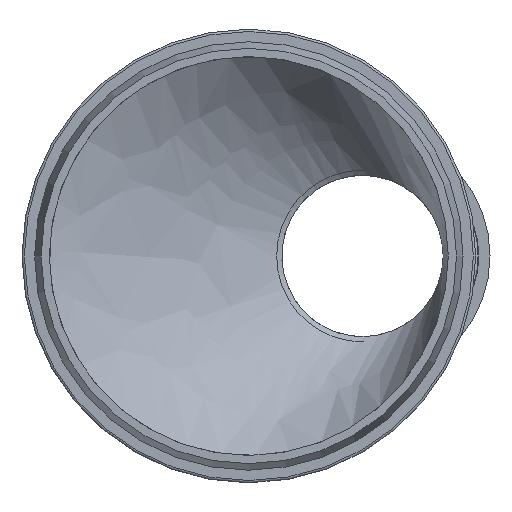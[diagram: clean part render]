
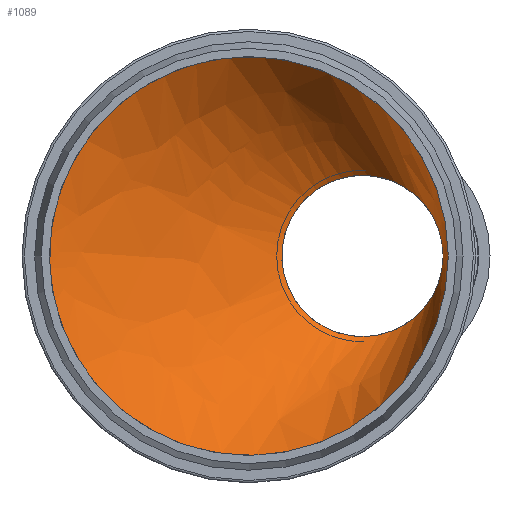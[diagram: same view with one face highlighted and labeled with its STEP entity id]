
A CAD part, front view. The second image highlights one B-rep face of the part: STEP entity #1089.
In plain terms, the highlighted free-form (B-spline) face has degree [1, 2] with [2, 9] control points.
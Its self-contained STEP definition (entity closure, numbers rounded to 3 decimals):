
#202=FACE_OUTER_BOUND($,#262,.T.);
#262=EDGE_LOOP($,(#729,#730,#731,#732,#733,#734));
#364=B_SPLINE_CURVE_WITH_KNOTS($,1,(#1611,#1612),.UNSPECIFIED.,.F.,.F.,
(2,2),(0.,2.266),.UNSPECIFIED.);
#414=CIRCLE($,#1162,16.975);
#415=CIRCLE($,#1163,16.975);
#416=CIRCLE($,#1164,42.);
#417=CIRCLE($,#1165,42.);
#473=VERTEX_POINT($,#1606);
#474=VERTEX_POINT($,#1607);
#475=VERTEX_POINT($,#1610);
#476=VERTEX_POINT($,#1613);
#584=EDGE_CURVE($,#473,#474,#414,.T.);
#585=EDGE_CURVE($,#474,#473,#415,.T.);
#586=EDGE_CURVE($,#474,#475,#364,.T.);
#587=EDGE_CURVE($,#475,#476,#416,.T.);
#588=EDGE_CURVE($,#476,#475,#417,.T.);
#729=ORIENTED_EDGE($,*,*,#584,.F.);
#730=ORIENTED_EDGE($,*,*,#585,.F.);
#731=ORIENTED_EDGE($,*,*,#586,.T.);
#732=ORIENTED_EDGE($,*,*,#587,.T.);
#733=ORIENTED_EDGE($,*,*,#588,.T.);
#734=ORIENTED_EDGE($,*,*,#586,.F.);
#1019=(
BOUNDED_SURFACE()
B_SPLINE_SURFACE(1,2,((#1588,#1589,#1590,#1591,#1592,#1593,#1594,#1595,
#1596),(#1597,#1598,#1599,#1600,#1601,#1602,#1603,#1604,#1605)),
 .UNSPECIFIED.,.F.,.T.,.F.)
B_SPLINE_SURFACE_WITH_KNOTS((2,2),(3,2,2,2,3),(-0.443,4.859),
(-3.142,-1.571,0.,1.571,3.142),
 .UNSPECIFIED.)
GEOMETRIC_REPRESENTATION_ITEM()
RATIONAL_B_SPLINE_SURFACE(((1.,0.707,1.,0.707,1.,
0.707,1.,0.707,1.),(1.,0.707,1.,0.707,
1.,0.707,1.,0.707,1.)))
REPRESENTATION_ITEM($)
SURFACE()
);
#1089=ADVANCED_FACE($,(#202),#1019,.T.);
#1162=AXIS2_PLACEMENT_3D($,#1608,#1293,#1294);
#1163=AXIS2_PLACEMENT_3D($,#1609,#1295,#1296);
#1164=AXIS2_PLACEMENT_3D($,#1614,#1297,#1298);
#1165=AXIS2_PLACEMENT_3D($,#1615,#1299,#1300);
#1293=DIRECTION('center_axis',(0.,-1.,0.));
#1294=DIRECTION('ref_axis',(1.,0.,0.));
#1295=DIRECTION('center_axis',(0.,-1.,0.));
#1296=DIRECTION('ref_axis',(1.,0.,0.));
#1297=DIRECTION('center_axis',(0.,-1.,0.));
#1298=DIRECTION('ref_axis',(1.,0.,0.));
#1299=DIRECTION('center_axis',(0.,-1.,0.));
#1300=DIRECTION('ref_axis',(1.,0.,0.));
#1588=CARTESIAN_POINT('Ctrl Pts',(33.501,97.959,11.048));
#1589=CARTESIAN_POINT('Ctrl Pts',(26.096,102.428,11.048));
#1590=CARTESIAN_POINT('Ctrl Pts',(26.096,102.428,0.));
#1591=CARTESIAN_POINT('Ctrl Pts',(26.096,102.428,-11.048));
#1592=CARTESIAN_POINT('Ctrl Pts',(33.501,97.959,-11.048));
#1593=CARTESIAN_POINT('Ctrl Pts',(40.905,93.49,-11.048));
#1594=CARTESIAN_POINT('Ctrl Pts',(40.905,93.49,0.));
#1595=CARTESIAN_POINT('Ctrl Pts',(40.905,93.49,11.048));
#1596=CARTESIAN_POINT('Ctrl Pts',(33.501,97.959,11.048));
#1597=CARTESIAN_POINT('Ctrl Pts',(1.21,44.46,64.599));
#1598=CARTESIAN_POINT('Ctrl Pts',(-42.084,70.591,64.599));
#1599=CARTESIAN_POINT('Ctrl Pts',(-42.084,70.591,0.));
#1600=CARTESIAN_POINT('Ctrl Pts',(-42.084,70.591,-64.599));
#1601=CARTESIAN_POINT('Ctrl Pts',(1.21,44.46,-64.599));
#1602=CARTESIAN_POINT('Ctrl Pts',(44.505,18.329,-64.599));
#1603=CARTESIAN_POINT('Ctrl Pts',(44.505,18.329,0.));
#1604=CARTESIAN_POINT('Ctrl Pts',(44.505,18.329,64.599));
#1605=CARTESIAN_POINT('Ctrl Pts',(1.21,44.46,64.599));
#1606=CARTESIAN_POINT('',(40.905,93.49,0.));
#1607=CARTESIAN_POINT('',(30.803,93.49,15.521));
#1608=CARTESIAN_POINT('Origin',(23.93,93.49,0.));
#1609=CARTESIAN_POINT('Origin',(23.93,93.49,0.));
#1610=CARTESIAN_POINT('',(17.006,70.63,38.403));
#1611=CARTESIAN_POINT('Ctrl Pts',(30.803,93.49,15.521));
#1612=CARTESIAN_POINT('Ctrl Pts',(17.006,70.63,38.403));
#1613=CARTESIAN_POINT('',(42.,70.63,0.));
#1614=CARTESIAN_POINT('Origin',(0.,70.63,0.));
#1615=CARTESIAN_POINT('Origin',(0.,70.63,0.));
